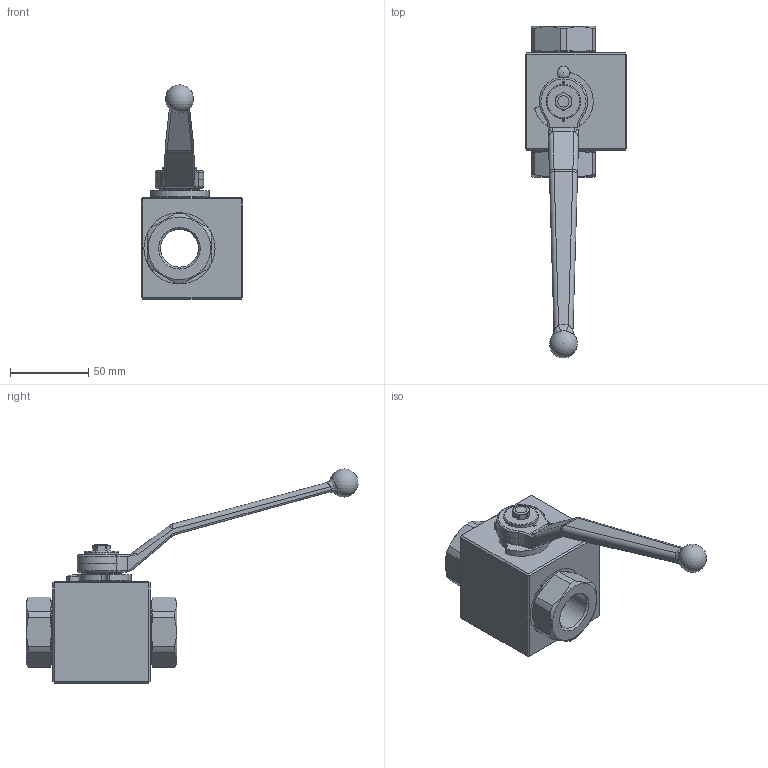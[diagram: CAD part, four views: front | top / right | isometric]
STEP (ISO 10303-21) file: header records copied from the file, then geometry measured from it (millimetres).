
FILE_DESCRIPTION( ( 'Unknown' ), '1' );
FILE_NAME( 'H:/PISTER/3D-MODELLE/BK3-Edelstahl stp/BK3-Edelst DN20 G3_4.stp', 'Unknown', ( 'Unknown' ), ( 'Unknown' ), 'PSStep 14.0', 'Unknown', ' ' );
FILE_SCHEMA( ( 'AUTOMOTIVE_DESIGN { 1 0 10303 214 1 1 1 1 }' ) );
Length unit declared in the file: millimetre
Products named in the file (11): Assem1; 58-28740-10-oa0; 10-025-001-oa2; 56-032-073-oa3; 09-14-002; 58-0440-007; 06-020-003-oa7; 04-020-035-oa8; 03-020-003-oa10; Griff_SW14; 01-020-041-oa11
Assembly tree (10 placements, depth 2):
  Assem1
    58-28740-10-oa0
    10-025-001-oa2
    56-032-073-oa3
    09-14-002
    58-0440-007
    06-020-003-oa7
    04-020-035-oa8
    03-020-003-oa10
    Griff_SW14
    01-020-041-oa11
Bounding box: 65 x 212.13 x 136.9 mm (x, y, z)
Volume: 231741.4 mm3; surface area: 58270.6 mm2
Topology: 10 solids, 10 shells, 305 faces, 781 edges, 492 vertices
Faces by surface type: plane 119, cylinder 89, bspline 32, cone 31, torus 31, sphere 3
Full cylindrical faces by diameter (mm): 5 x1, 6 x1, 6.6 x1, 7.98 x1, 20 x3, 20.2 x1, 22 x1, 24.117 x2, 24.12 x2, 25 x1, 31 x1, 36 x1, 40 x1, 41 x2, 45.5 x2
Entity records: 13821 total; most frequent: CARTESIAN_POINT 4457, ORIENTED_EDGE 1416, DIRECTION 1325, EDGE_CURVE 708, AXIS2_PLACEMENT_3D 531, VERTEX_POINT 467, EDGE_LOOP 367, FACE_OUTER_BOUND 330
